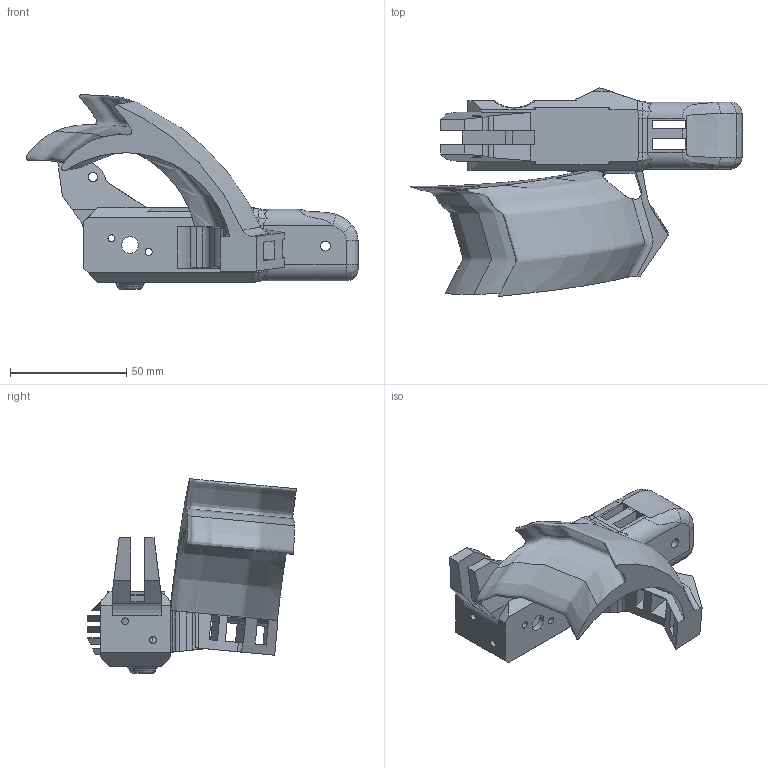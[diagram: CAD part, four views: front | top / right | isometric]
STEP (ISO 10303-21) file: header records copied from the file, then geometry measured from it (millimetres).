
FILE_DESCRIPTION(/* description */ (''),/* implementation_level */ '2;1');
FILE_NAME(/* name */ '后臂右.prt.stp',/* time_stamp */ '2021-03-21T20:48:14+08:00',/* author */ (''),/* organization */ (''),/* preprocessor_version */ 'ST-DEVELOPER v16',/* originating_system */ 'SIEMENS PLM Software NX 10.0',/* authorisation */ '');
FILE_SCHEMA (('CONFIG_CONTROL_DESIGN'));
Length unit declared in the file: millimetre
Products named in the file (1): 后臂右
Bounding box: 142.74 x 89.7 x 83.65 mm (x, y, z)
Volume: 124652 mm3; surface area: 44496.8 mm2
Topology: 1 solids, 1 shells, 255 faces, 732 edges, 475 vertices
Faces by surface type: plane 159, cylinder 48, bspline 39, torus 4, cone 4, extrusion 1
Full cylindrical faces by diameter (mm): 2.9 x3, 3 x2, 4 x2, 4.3 x1, 7.2 x1, 25.6 x1, 27 x2
Entity records: 19863 total; most frequent: CARTESIAN_POINT 13473, ORIENTED_EDGE 1408, DIRECTION 1142, EDGE_CURVE 704, VERTEX_POINT 463, VECTOR 450, LINE 449, AXIS2_PLACEMENT_3D 346
